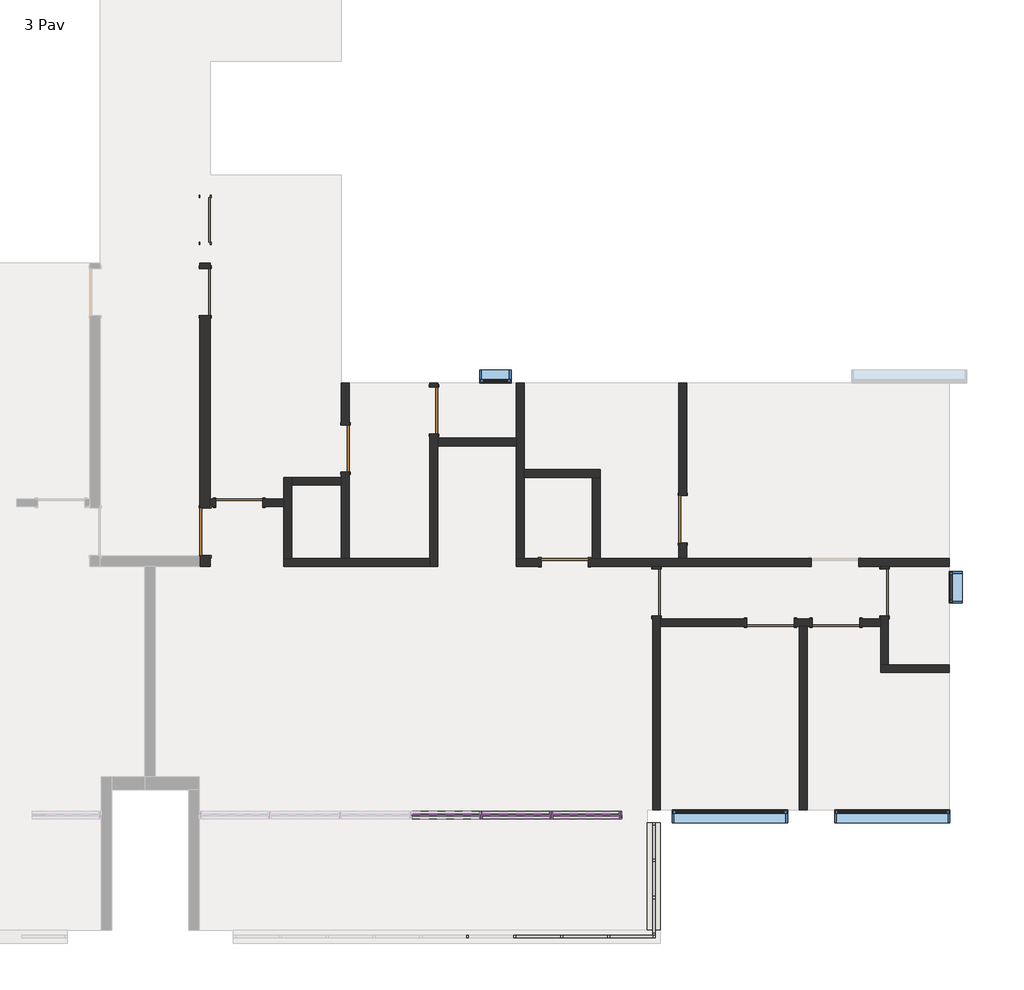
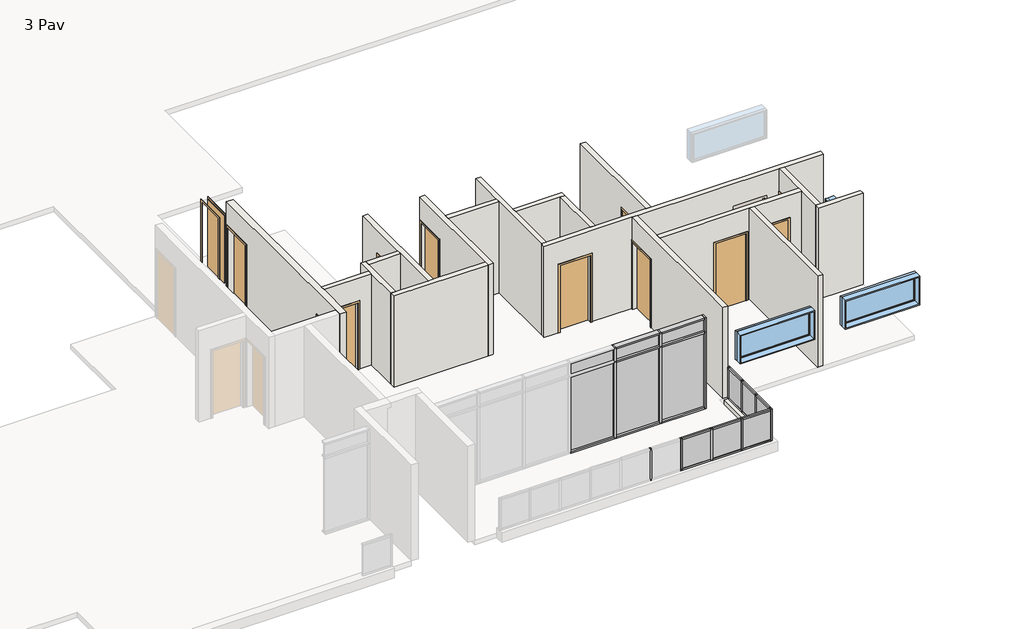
# One storey, part 3 of 6: 34 members, 19 walls, 12 doors, 12 plates, 4 windows.
"""IFC4 building model written with IfcOpenShell, lengths in millimetres."""

from ifc_helpers import new_model, si_unit, frame, origin, place, context, project, spatial, polyline, outline, extrude, faceted_brep, transform, mapped, element, save
from components import door_85_x_210_7675e995, door_90_x_210_ee935524, door_90_x_210_565370b3, door_90_x_210_fbafd55c, montante_retangular_50_mm_quadrado_4acded50, montante_retangular_50_mm_quadrado_237d7072, montante_retangular_50_mm_quadrado_84e40a56, montante_retangular_50_mm_quadrado_3d152aff, montante_retangular_50_mm_quadrado_a01005a4, montante_retangular_50_mm_quadrado_ddd80bd7, montante_retangular_50_x_150_mm_6217edde, montante_retangular_50_x_150_mm_a22249d7, montante_retangular_50_x_150_mm_6225e4e3, montante_retangular_50_x_150_mm_1ca2bba2, montante_retangular_50_x_150_mm_6abf4531, montante_retangular_50_x_150_mm_662c37b1, montante_retangular_50_x_150_mm_567eccab, montante_retangular_50_x_150_mm_0a8c3443, painel_do_sistema_57ceaf50, painel_do_sistema_ab0ed719, painel_do_sistema_0196877a, painel_do_sistema_2aa81470, painel_do_sistema_1ecb5f42, painel_do_sistema_49db1829, painel_do_sistema_5ea5287b, painel_do_sistema_7730abee, window_0610_x_0610_mm_da1d4716, window_220_x_90_84e01c73

model = new_model("IFC4")

# Units and contexts
model_context = context("Model", 3, world=origin())
ifc_project = project(units=[si_unit("LENGTHUNIT", "METRE", prefix="MILLI")], contexts=[model_context])

# Site, building, storey
site = spatial("IfcSite", under=ifc_project)
building = spatial("IfcBuilding", under=site)
storey = spatial("IfcBuildingStorey", under=building, Name="3 Pav", Elevation=9000.0)

# Doors
placement = place(None, origin())
door_85_x_210_shape = door_85_x_210_7675e995(model_context)
element("IfcDoor", 1, ObjectType="M_Descarga simples : 85 x 210", at=placement, inside=storey, context=model_context, shape_type="MappedRepresentation", body=[
    mapped(door_85_x_210_shape, transform((23.7734258, -1171.3385375, 9000.0), x_axis=(0.0, -1.0, 0.0), y_axis=(1.0, 0.0, 0.0), z_axis=(0.0, 0.0, 1.0))),
])
door_90_x_210_shape = door_90_x_210_ee935524(model_context)
element("IfcDoor", 2, ObjectType="M_Descarga simples : 90 x 210", at=placement, inside=storey, context=model_context, shape_type="MappedRepresentation", body=[
    mapped(door_90_x_210_shape, transform((12063.7734258, -8861.3385375, 9000.0), x_axis=(-1.0, 0.0, 0.0), y_axis=(0.0, -1.0, 0.0), z_axis=(0.0, 0.0, 1.0))),
])
element("IfcDoor", 3, ObjectType="M_Descarga simples : 90 x 210", at=placement, inside=storey, context=model_context, shape_type="MappedRepresentation", body=[
    mapped(door_90_x_210_shape, transform((6883.7734258, -7711.3385375, 9000.0), x_axis=(1.0, 0.0, 0.0), y_axis=(0.0, 1.0, 0.0), z_axis=(0.0, 0.0, 1.0))),
])
door_90_x_210_2_shape = door_90_x_210_565370b3(model_context)
element("IfcDoor", 4, ObjectType="M_Descarga simples : 90 x 210", at=placement, inside=storey, context=model_context, shape_type="MappedRepresentation", body=[
    mapped(door_90_x_210_2_shape, transform((673.7734258, -6571.3385375, 9000.0), x_axis=(-1.0, 0.0, 0.0), y_axis=(0.0, -1.0, 0.0), z_axis=(0.0, 0.0, 1.0))),
])
element("IfcDoor", 5, ObjectType="M_Descarga simples : 90 x 210", at=placement, inside=storey, context=model_context, shape_type="MappedRepresentation", body=[
    mapped(door_90_x_210_2_shape, transform((2698.7734258, -5536.3385375, 9000.0), x_axis=(0.0, 1.0, 0.0), y_axis=(-1.0, 0.0, 0.0), z_axis=(0.0, 0.0, 1.0))),
])
element("IfcDoor", 6, ObjectType="M_Descarga simples : 90 x 210", at=placement, inside=storey, context=model_context, shape_type="MappedRepresentation", body=[
    mapped(door_90_x_210_2_shape, transform((4388.7734258, -4811.3385375, 9000.0), x_axis=(0.0, 1.0, 0.0), y_axis=(-1.0, 0.0, 0.0), z_axis=(0.0, 0.0, 1.0))),
])
element("IfcDoor", 7, ObjectType="M_Descarga simples : 90 x 210", at=placement, inside=storey, context=model_context, shape_type="MappedRepresentation", body=[
    mapped(door_90_x_210_2_shape, transform((9138.7734258, -6886.3385375, 9000.0), x_axis=(0.0, -1.0, 0.0), y_axis=(1.0, 0.0, 0.0), z_axis=(0.0, 0.0, 1.0))),
])
element("IfcDoor", 8, ObjectType="M_Descarga simples : 90 x 210", at=placement, inside=storey, context=model_context, shape_type="MappedRepresentation", body=[
    mapped(door_90_x_210_2_shape, transform((8638.7734258, -8286.3385375, 9000.0), x_axis=(0.0, 1.0, 0.0), y_axis=(-1.0, 0.0, 0.0), z_axis=(0.0, 0.0, 1.0))),
])
element("IfcDoor", 9, ObjectType="M_Descarga simples : 90 x 210", at=placement, inside=storey, context=model_context, shape_type="MappedRepresentation", body=[
    mapped(door_90_x_210_2_shape, transform((12988.7734258, -8286.3385375, 9000.0), x_axis=(0.0, 1.0, 0.0), y_axis=(-1.0, 0.0, 0.0), z_axis=(0.0, 0.0, 1.0))),
])
element("IfcDoor", 10, ObjectType="M_Descarga simples : 90 x 210", at=placement, inside=storey, context=model_context, shape_type="MappedRepresentation", body=[
    mapped(door_90_x_210_2_shape, transform((10813.7734258, -8861.3385375, 9000.0), x_axis=(1.0, 0.0, 0.0), y_axis=(0.0, 1.0, 0.0), z_axis=(0.0, 0.0, 1.0))),
])
door_90_x_210_3_shape = door_90_x_210_fbafd55c(model_context)
element("IfcDoor", 11, ObjectType="M_Descarga simples : 90 x 210", at=placement, inside=storey, context=model_context, shape_type="MappedRepresentation", body=[
    mapped(door_90_x_210_3_shape, transform((23.7734258, -2546.3385375, 9000.0), x_axis=(0.0, 1.0, 0.0), y_axis=(-1.0, 0.0, 0.0), z_axis=(0.0, 0.0, 1.0))),
])
element("IfcDoor", 12, ObjectType="M_Descarga simples : 90 x 210", at=placement, inside=storey, context=model_context, shape_type="MappedRepresentation", body=[
    mapped(door_90_x_210_3_shape, transform((23.7734258, -7125.9292512, 9000.0), x_axis=(0.0, -1.0, 0.0), y_axis=(1.0, 0.0, 0.0), z_axis=(0.0, 0.0, 1.0))),
])

# Members
montante_retangular_50_mm_quadrado_shape = montante_retangular_50_mm_quadrado_4acded50(model_context)
element("IfcMember", 13, ObjectType="Montante retangular : 50 mm Quadrado", at=placement, inside=storey, context=model_context, shape_type="MappedRepresentation", body=[
    mapped(montante_retangular_50_mm_quadrado_shape, transform((8563.7734258, -14856.3385375, 10150.0), x_axis=(0.0, 0.0, 1.0), y_axis=(0.0, -1.0, 0.0), z_axis=(1.0, 0.0, 0.0))),
])
montante_retangular_50_mm_quadrado_2_shape = montante_retangular_50_mm_quadrado_237d7072(model_context)
element("IfcMember", 14, ObjectType="Montante retangular : 50 mm Quadrado", at=placement, inside=storey, context=model_context, shape_type="MappedRepresentation", body=[
    mapped(montante_retangular_50_mm_quadrado_2_shape, transform((6798.7734258, -14856.3385375, 10150.0), x_axis=(0.0, 0.0, 1.0), y_axis=(0.0, -1.0, 0.0), z_axis=(1.0, 0.0, 0.0))),
])
element("IfcMember", 15, ObjectType="Montante retangular : 50 mm Quadrado", at=placement, inside=storey, context=model_context, shape_type="MappedRepresentation", body=[
    mapped(montante_retangular_50_mm_quadrado_2_shape, transform((7693.7734258, -14856.3385375, 10150.0), x_axis=(0.0, 0.0, 1.0), y_axis=(0.0, -1.0, 0.0), z_axis=(1.0, 0.0, 0.0))),
])
element("IfcMember", 16, ObjectType="Montante retangular : 50 mm Quadrado", at=placement, inside=storey, context=model_context, shape_type="MappedRepresentation", body=[
    mapped(montante_retangular_50_mm_quadrado_shape, transform((7743.7734258, -14856.3385375, 9150.0), x_axis=(0.0, 0.0, -1.0), y_axis=(0.0, -1.0, 0.0), z_axis=(-1.0, 0.0, 0.0))),
])
element("IfcMember", 17, ObjectType="Montante retangular : 50 mm Quadrado", at=placement, inside=storey, context=model_context, shape_type="MappedRepresentation", body=[
    mapped(montante_retangular_50_mm_quadrado_2_shape, transform((5953.7734258, -14856.3385375, 9150.0), x_axis=(0.0, 0.0, -1.0), y_axis=(0.0, -1.0, 0.0), z_axis=(-1.0, 0.0, 0.0))),
])
element("IfcMember", 18, ObjectType="Montante retangular : 50 mm Quadrado", at=placement, inside=storey, context=model_context, shape_type="MappedRepresentation", body=[
    mapped(montante_retangular_50_mm_quadrado_2_shape, transform((6848.7734258, -14856.3385375, 9150.0), x_axis=(0.0, 0.0, -1.0), y_axis=(0.0, -1.0, 0.0), z_axis=(-1.0, 0.0, 0.0))),
])
montante_retangular_50_mm_quadrado_3_shape = montante_retangular_50_mm_quadrado_84e40a56(model_context)
element("IfcMember", 19, ObjectType="Montante retangular : 50 mm Quadrado", at=placement, inside=storey, context=model_context, shape_type="MappedRepresentation", body=[
    mapped(montante_retangular_50_mm_quadrado_3_shape, transform((5033.7734258, -14856.3385375, 9150.0), x_axis=(1.0, 0.0, 0.0), y_axis=(0.0, -1.0, 0.0), z_axis=(0.0, 0.0, -1.0))),
])
element("IfcMember", 20, ObjectType="Montante retangular : 50 mm Quadrado", at=placement, inside=storey, context=model_context, shape_type="MappedRepresentation", body=[
    mapped(montante_retangular_50_mm_quadrado_3_shape, transform((5928.7734258, -14856.3385375, 9150.0), x_axis=(1.0, 0.0, 0.0), y_axis=(0.0, -1.0, 0.0), z_axis=(0.0, 0.0, -1.0))),
])
element("IfcMember", 21, ObjectType="Montante retangular : 50 mm Quadrado", at=placement, inside=storey, context=model_context, shape_type="MappedRepresentation", body=[
    mapped(montante_retangular_50_mm_quadrado_3_shape, transform((6823.7734258, -14856.3385375, 9150.0), x_axis=(1.0, 0.0, 0.0), y_axis=(0.0, -1.0, 0.0), z_axis=(0.0, 0.0, -1.0))),
])
element("IfcMember", 22, ObjectType="Montante retangular : 50 mm Quadrado", at=placement, inside=storey, context=model_context, shape_type="MappedRepresentation", body=[
    mapped(montante_retangular_50_mm_quadrado_3_shape, transform((7718.7734258, -14856.3385375, 9150.0), x_axis=(1.0, 0.0, 0.0), y_axis=(0.0, -1.0, 0.0), z_axis=(0.0, 0.0, -1.0))),
])
element("IfcMember", 23, ObjectType="Montante retangular : 50 mm Quadrado", at=placement, inside=storey, context=model_context, shape_type="MappedRepresentation", body=[
    mapped(montante_retangular_50_mm_quadrado_3_shape, transform((8588.7734258, -14116.3385375, 9150.0), x_axis=(0.0, 1.0, 0.0), y_axis=(1.0, 0.0, 0.0), z_axis=(0.0, 0.0, -1.0))),
])
element("IfcMember", 24, ObjectType="Montante retangular : 50 mm Quadrado", at=placement, inside=storey, context=model_context, shape_type="MappedRepresentation", body=[
    mapped(montante_retangular_50_mm_quadrado_3_shape, transform((8588.7734258, -13401.3385375, 9150.0), x_axis=(0.0, 1.0, 0.0), y_axis=(1.0, 0.0, 0.0), z_axis=(0.0, 0.0, -1.0))),
])
montante_retangular_50_mm_quadrado_4_shape = montante_retangular_50_mm_quadrado_3d152aff(model_context)
element("IfcMember", 25, ObjectType="Montante retangular : 50 mm Quadrado", at=placement, inside=storey, context=model_context, shape_type="MappedRepresentation", body=[
    mapped(montante_retangular_50_mm_quadrado_4_shape, transform((8613.7734258, -14856.3385375, 9150.0), x_axis=(1.0, 0.0, 0.0), y_axis=(0.0, -1.0, 0.0), z_axis=(0.0, 0.0, -1.0))),
])
element("IfcMember", 26, ObjectType="Montante retangular : 50 mm Quadrado", at=placement, inside=storey, context=model_context, shape_type="MappedRepresentation", body=[
    mapped(montante_retangular_50_mm_quadrado_4_shape, transform((8588.7734258, -12686.3385375, 9150.0), x_axis=(0.0, 1.0, 0.0), y_axis=(1.0, 0.0, 0.0), z_axis=(0.0, 0.0, -1.0))),
])
element("IfcMember", 27, ObjectType="Montante retangular : 50 mm Quadrado", at=placement, inside=storey, context=model_context, shape_type="MappedRepresentation", body=[
    mapped(montante_retangular_50_mm_quadrado_4_shape, transform((8588.7734258, -14831.3385375, 10150.0), x_axis=(0.0, -1.0, 0.0), y_axis=(1.0, 0.0, 0.0), z_axis=(0.0, 0.0, 1.0))),
])
montante_retangular_50_mm_quadrado_5_shape = montante_retangular_50_mm_quadrado_a01005a4(model_context)
element("IfcMember", 28, ObjectType="Montante retangular : 50 mm Quadrado", at=placement, inside=storey, context=model_context, shape_type="MappedRepresentation", body=[
    mapped(montante_retangular_50_mm_quadrado_5_shape, transform((8588.7734258, -12736.3385375, 10150.0), x_axis=(0.0, 0.0, 1.0), y_axis=(1.0, 0.0, 0.0), z_axis=(0.0, 1.0, 0.0))),
])
element("IfcMember", 29, ObjectType="Montante retangular : 50 mm Quadrado", at=placement, inside=storey, context=model_context, shape_type="MappedRepresentation", body=[
    mapped(montante_retangular_50_mm_quadrado_5_shape, transform((8588.7734258, -14141.3385375, 10150.0), x_axis=(0.0, 0.0, 1.0), y_axis=(1.0, 0.0, 0.0), z_axis=(0.0, 1.0, 0.0))),
])
montante_retangular_50_mm_quadrado_6_shape = montante_retangular_50_mm_quadrado_ddd80bd7(model_context)
element("IfcMember", 30, ObjectType="Montante retangular : 50 mm Quadrado", at=placement, inside=storey, context=model_context, shape_type="MappedRepresentation", body=[
    mapped(montante_retangular_50_mm_quadrado_6_shape, transform((8588.7734258, -13426.3385375, 10150.0), x_axis=(0.0, 0.0, 1.0), y_axis=(1.0, 0.0, 0.0), z_axis=(0.0, 1.0, 0.0))),
])
element("IfcMember", 31, ObjectType="Montante retangular : 50 mm Quadrado", at=placement, inside=storey, context=model_context, shape_type="MappedRepresentation", body=[
    mapped(montante_retangular_50_mm_quadrado_5_shape, transform((8588.7734258, -14781.3385375, 9150.0), x_axis=(0.0, 0.0, -1.0), y_axis=(1.0, 0.0, 0.0), z_axis=(0.0, -1.0, 0.0))),
])
element("IfcMember", 32, ObjectType="Montante retangular : 50 mm Quadrado", at=placement, inside=storey, context=model_context, shape_type="MappedRepresentation", body=[
    mapped(montante_retangular_50_mm_quadrado_5_shape, transform((8588.7734258, -13376.3385375, 9150.0), x_axis=(0.0, 0.0, -1.0), y_axis=(1.0, 0.0, 0.0), z_axis=(0.0, -1.0, 0.0))),
])
element("IfcMember", 33, ObjectType="Montante retangular : 50 mm Quadrado", at=placement, inside=storey, context=model_context, shape_type="MappedRepresentation", body=[
    mapped(montante_retangular_50_mm_quadrado_6_shape, transform((8588.7734258, -14091.3385375, 9150.0), x_axis=(0.0, 0.0, -1.0), y_axis=(1.0, 0.0, 0.0), z_axis=(0.0, -1.0, 0.0))),
])
montante_retangular_50_x_150_mm_shape = montante_retangular_50_x_150_mm_6217edde(model_context)
element("IfcMember", 34, ObjectType="Montante retangular : 50 x 150 mm", at=placement, inside=storey, context=model_context, shape_type="MappedRepresentation", body=[
    mapped(montante_retangular_50_x_150_mm_shape, transform((6654.6067592, -12536.3385375, 11850.0), x_axis=(0.0, 0.0, 1.0), y_axis=(0.0, 1.0, 0.0), z_axis=(-1.0, 0.0, 0.0))),
])
montante_retangular_50_x_150_mm_2_shape = montante_retangular_50_x_150_mm_a22249d7(model_context)
element("IfcMember", 35, ObjectType="Montante retangular : 50 x 150 mm", at=placement, inside=storey, context=model_context, shape_type="MappedRepresentation", body=[
    mapped(montante_retangular_50_x_150_mm_2_shape, transform((5310.4400925, -12536.3385375, 11850.0), x_axis=(0.0, 0.0, 1.0), y_axis=(0.0, 1.0, 0.0), z_axis=(-1.0, 0.0, 0.0))),
])
element("IfcMember", 36, ObjectType="Montante retangular : 50 x 150 mm", at=placement, inside=storey, context=model_context, shape_type="MappedRepresentation", body=[
    mapped(montante_retangular_50_x_150_mm_shape, transform((7923.7734258, -12536.3385375, 9000.0), x_axis=(0.0, 0.0, -1.0), y_axis=(0.0, 1.0, 0.0), z_axis=(1.0, 0.0, 0.0))),
])
element("IfcMember", 37, ObjectType="Montante retangular : 50 x 150 mm", at=placement, inside=storey, context=model_context, shape_type="MappedRepresentation", body=[
    mapped(montante_retangular_50_x_150_mm_2_shape, transform((6604.6067592, -12536.3385375, 9000.0), x_axis=(0.0, 0.0, -1.0), y_axis=(0.0, 1.0, 0.0), z_axis=(1.0, 0.0, 0.0))),
])
element("IfcMember", 38, ObjectType="Montante retangular : 50 x 150 mm", at=placement, inside=storey, context=model_context, shape_type="MappedRepresentation", body=[
    mapped(montante_retangular_50_x_150_mm_2_shape, transform((5260.4400925, -12536.3385375, 9000.0), x_axis=(0.0, 0.0, -1.0), y_axis=(0.0, 1.0, 0.0), z_axis=(1.0, 0.0, 0.0))),
])
montante_retangular_50_x_150_mm_3_shape = montante_retangular_50_x_150_mm_6225e4e3(model_context)
element("IfcMember", 39, ObjectType="Montante retangular : 50 x 150 mm", at=placement, inside=storey, context=model_context, shape_type="MappedRepresentation", body=[
    mapped(montante_retangular_50_x_150_mm_3_shape, transform((6629.6067592, -12536.3385375, 9000.0), x_axis=(-1.0, 0.0, 0.0), y_axis=(0.0, 1.0, 0.0), z_axis=(0.0, 0.0, -1.0))),
])
element("IfcMember", 40, ObjectType="Montante retangular : 50 x 150 mm", at=placement, inside=storey, context=model_context, shape_type="MappedRepresentation", body=[
    mapped(montante_retangular_50_x_150_mm_3_shape, transform((5285.4400925, -12536.3385375, 9000.0), x_axis=(-1.0, 0.0, 0.0), y_axis=(0.0, 1.0, 0.0), z_axis=(0.0, 0.0, -1.0))),
])
montante_retangular_50_x_150_mm_4_shape = montante_retangular_50_x_150_mm_1ca2bba2(model_context)
element("IfcMember", 41, ObjectType="Montante retangular : 50 x 150 mm", at=placement, inside=storey, context=model_context, shape_type="MappedRepresentation", body=[
    mapped(montante_retangular_50_x_150_mm_4_shape, transform((6654.6067592, -12536.3385375, 11400.0), x_axis=(0.0, 0.0, 1.0), y_axis=(0.0, 1.0, 0.0), z_axis=(-1.0, 0.0, 0.0))),
])
montante_retangular_50_x_150_mm_5_shape = montante_retangular_50_x_150_mm_6abf4531(model_context)
element("IfcMember", 42, ObjectType="Montante retangular : 50 x 150 mm", at=placement, inside=storey, context=model_context, shape_type="MappedRepresentation", body=[
    mapped(montante_retangular_50_x_150_mm_5_shape, transform((5310.4400925, -12536.3385375, 11400.0), x_axis=(0.0, 0.0, 1.0), y_axis=(0.0, 1.0, 0.0), z_axis=(-1.0, 0.0, 0.0))),
])
montante_retangular_50_x_150_mm_6_shape = montante_retangular_50_x_150_mm_662c37b1(model_context)
element("IfcMember", 43, ObjectType="Montante retangular : 50 x 150 mm", at=placement, inside=storey, context=model_context, shape_type="MappedRepresentation", body=[
    mapped(montante_retangular_50_x_150_mm_6_shape, transform((7973.7734258, -12536.3385375, 11400.0), x_axis=(1.0, 0.0, 0.0), y_axis=(0.0, 1.0, 0.0), z_axis=(0.0, 0.0, 1.0))),
])
montante_retangular_50_x_150_mm_7_shape = montante_retangular_50_x_150_mm_567eccab(model_context)
element("IfcMember", 44, ObjectType="Montante retangular : 50 x 150 mm", at=placement, inside=storey, context=model_context, shape_type="MappedRepresentation", body=[
    mapped(montante_retangular_50_x_150_mm_7_shape, transform((6629.6067592, -12536.3385375, 11400.0), x_axis=(-1.0, 0.0, 0.0), y_axis=(0.0, 1.0, 0.0), z_axis=(0.0, 0.0, -1.0))),
])
element("IfcMember", 45, ObjectType="Montante retangular : 50 x 150 mm", at=placement, inside=storey, context=model_context, shape_type="MappedRepresentation", body=[
    mapped(montante_retangular_50_x_150_mm_7_shape, transform((5285.4400925, -12536.3385375, 11400.0), x_axis=(-1.0, 0.0, 0.0), y_axis=(0.0, 1.0, 0.0), z_axis=(0.0, 0.0, -1.0))),
])
montante_retangular_50_x_150_mm_8_shape = montante_retangular_50_x_150_mm_0a8c3443(model_context)
element("IfcMember", 46, ObjectType="Montante retangular : 50 x 150 mm", at=placement, inside=storey, context=model_context, shape_type="MappedRepresentation", body=[
    mapped(montante_retangular_50_x_150_mm_8_shape, transform((7973.7734258, -12536.3385375, 11850.0), x_axis=(1.0, 0.0, 0.0), y_axis=(0.0, 1.0, 0.0), z_axis=(0.0, 0.0, 1.0))),
])

# Plates
painel_do_sistema_shape = painel_do_sistema_57ceaf50(model_context)
element("IfcPlate", 47, ObjectType="Painel do sistema : Envidraçado", at=placement, inside=storey, context=model_context, shape_type="MappedRepresentation", body=[
    mapped(painel_do_sistema_shape, transform((8153.7734258, -14856.3385375, 9200.0), x_axis=(1.0, 0.0, 0.0), y_axis=(0.0, 1.0, 0.0), z_axis=(0.0, 0.0, 1.0))),
])
painel_do_sistema_2_shape = painel_do_sistema_ab0ed719(model_context)
element("IfcPlate", 48, ObjectType="Painel do sistema : Envidraçado", at=placement, inside=storey, context=model_context, shape_type="MappedRepresentation", body=[
    mapped(painel_do_sistema_2_shape, transform((6376.2734258, -14856.3385375, 9200.0), x_axis=(1.0, 0.0, 0.0), y_axis=(0.0, 1.0, 0.0), z_axis=(0.0, 0.0, 1.0))),
])
element("IfcPlate", 49, ObjectType="Painel do sistema : Envidraçado", at=placement, inside=storey, context=model_context, shape_type="MappedRepresentation", body=[
    mapped(painel_do_sistema_2_shape, transform((7271.2734258, -14856.3385375, 9200.0), x_axis=(1.0, 0.0, 0.0), y_axis=(0.0, 1.0, 0.0), z_axis=(0.0, 0.0, 1.0))),
])
painel_do_sistema_3_shape = painel_do_sistema_0196877a(model_context)
element("IfcPlate", 50, ObjectType="Painel do sistema : Envidraçado", at=placement, inside=storey, context=model_context, shape_type="MappedRepresentation", body=[
    mapped(painel_do_sistema_3_shape, transform((8588.7734258, -14461.3385375, 9200.0), x_axis=(0.0, 1.0, 0.0), y_axis=(-1.0, 0.0, 0.0), z_axis=(0.0, 0.0, 1.0))),
])
element("IfcPlate", 51, ObjectType="Painel do sistema : Envidraçado", at=placement, inside=storey, context=model_context, shape_type="MappedRepresentation", body=[
    mapped(painel_do_sistema_3_shape, transform((8588.7734258, -13056.3385375, 9200.0), x_axis=(0.0, 1.0, 0.0), y_axis=(-1.0, 0.0, 0.0), z_axis=(0.0, 0.0, 1.0))),
])
painel_do_sistema_4_shape = painel_do_sistema_2aa81470(model_context)
element("IfcPlate", 52, ObjectType="Painel do sistema : Envidraçado", at=placement, inside=storey, context=model_context, shape_type="MappedRepresentation", body=[
    mapped(painel_do_sistema_4_shape, transform((8588.7734258, -13758.8385375, 9200.0), x_axis=(0.0, 1.0, 0.0), y_axis=(-1.0, 0.0, 0.0), z_axis=(0.0, 0.0, 1.0))),
])
painel_do_sistema_5_shape = painel_do_sistema_1ecb5f42(model_context)
element("IfcPlate", 53, ObjectType="Painel do sistema : Envidraçado", at=placement, inside=storey, context=model_context, shape_type="MappedRepresentation", body=[
    mapped(painel_do_sistema_5_shape, transform((7289.1900925, -12536.3385375, 9050.0), x_axis=(-1.0, 0.0, 0.0), y_axis=(0.0, -1.0, 0.0), z_axis=(0.0, 0.0, 1.0))),
])
painel_do_sistema_6_shape = painel_do_sistema_49db1829(model_context)
element("IfcPlate", 54, ObjectType="Painel do sistema : Envidraçado", at=placement, inside=storey, context=model_context, shape_type="MappedRepresentation", body=[
    mapped(painel_do_sistema_6_shape, transform((5957.5234258, -12536.3385375, 9050.0), x_axis=(-1.0, 0.0, 0.0), y_axis=(0.0, -1.0, 0.0), z_axis=(0.0, 0.0, 1.0))),
])
element("IfcPlate", 55, ObjectType="Painel do sistema : Envidraçado", at=placement, inside=storey, context=model_context, shape_type="MappedRepresentation", body=[
    mapped(painel_do_sistema_6_shape, transform((4613.3567592, -12536.3385375, 9050.0), x_axis=(-1.0, 0.0, 0.0), y_axis=(0.0, -1.0, 0.0), z_axis=(0.0, 0.0, 1.0))),
])
painel_do_sistema_7_shape = painel_do_sistema_5ea5287b(model_context)
element("IfcPlate", 56, ObjectType="Painel do sistema : Envidraçado", at=placement, inside=storey, context=model_context, shape_type="MappedRepresentation", body=[
    mapped(painel_do_sistema_7_shape, transform((7289.1900925, -12536.3385375, 11425.0), x_axis=(-1.0, 0.0, 0.0), y_axis=(0.0, -1.0, 0.0), z_axis=(0.0, 0.0, 1.0))),
])
painel_do_sistema_8_shape = painel_do_sistema_7730abee(model_context)
element("IfcPlate", 57, ObjectType="Painel do sistema : Envidraçado", at=placement, inside=storey, context=model_context, shape_type="MappedRepresentation", body=[
    mapped(painel_do_sistema_8_shape, transform((5957.5234258, -12536.3385375, 11425.0), x_axis=(-1.0, 0.0, 0.0), y_axis=(0.0, -1.0, 0.0), z_axis=(0.0, 0.0, 1.0))),
])
element("IfcPlate", 58, ObjectType="Painel do sistema : Envidraçado", at=placement, inside=storey, context=model_context, shape_type="MappedRepresentation", body=[
    mapped(painel_do_sistema_8_shape, transform((4613.3567592, -12536.3385375, 11425.0), x_axis=(-1.0, 0.0, 0.0), y_axis=(0.0, -1.0, 0.0), z_axis=(0.0, 0.0, 1.0))),
])

# Walls
element("IfcWall", 59, ObjectType="Exeterna 25", at=placement, inside=storey, context=model_context, shape_type="SweptSolid", body=[
    extrude(outline(polyline([(8713.7734258, -12686.3385375), (8713.7734258, -14731.3385375), (8463.7734258, -14731.3385375), (8463.7734258, -12686.3385375), (8713.7734258, -12686.3385375)])), frame((0.0, 0.0, 8850.0), z_axis=(0.0, 0.0, 1.0), x_axis=(1.0, 0.0, 0.0)), (0.0, 0.0, 1.0), 300.0),
])
element("IfcWall", 60, ObjectType="Interna 15", at=placement, inside=storey, context=model_context, shape_type="Brep", body=[
    faceted_brep([(8713.7734258, -7836.3385375, 11100.0), (8713.7734258, -7836.3385375, 9000.0), (8713.7734258, -7786.3385375, 9000.0), (8713.7734258, -7786.3385375, 11850.0), (8713.7734258, -8786.3385375, 11850.0), (8713.7734258, -8936.3385375, 11850.0), (8713.7734258, -12436.3385375, 11850.0), (8713.7734258, -12436.3385375, 9000.0), (8713.7734258, -8936.3385375, 9000.0), (8713.7734258, -8786.3385375, 9000.0), (8713.7734258, -8736.3385375, 9000.0), (8713.7734258, -8736.3385375, 11100.0), (8563.7734258, -7786.3385375, 9000.0), (8563.7734258, -7836.3385375, 9000.0), (8563.7734258, -7836.3385375, 11100.0), (8563.7734258, -8736.3385375, 11100.0), (8563.7734258, -8736.3385375, 9000.0), (8563.7734258, -12436.3385375, 9000.0), (8563.7734258, -12436.3385375, 11850.0), (8563.7734258, -7786.3385375, 11850.0)], [[[0, 1, 2, 3, 4, 5, 6, 7, 8, 9, 10, 11]], [[12, 13, 14, 15, 16, 17, 18, 19]], [[2, 1, 13, 12]], [[10, 9, 8, 7, 17, 16]], [[6, 5, 4, 3, 19, 18]], [[3, 2, 12, 19]], [[14, 13, 1, 0]], [[15, 14, 0, 11]], [[16, 15, 11, 10]], [[7, 6, 18, 17]]]),
])
element("IfcWall", 61, ObjectType="Interna 15", at=placement, inside=storey, context=model_context, shape_type="Brep", body=[
    faceted_brep([(11263.7734258, -8936.3385375, 9000.0), (11363.7734258, -8936.3385375, 9000.0), (11513.7734258, -8936.3385375, 9000.0), (11613.7734258, -8936.3385375, 9000.0), (11613.7734258, -8936.3385375, 11100.0), (12513.7734258, -8936.3385375, 11100.0), (12513.7734258, -8936.3385375, 9000.0), (12913.7734258, -8936.3385375, 9000.0), (12913.7734258, -8936.3385375, 11850.0), (11513.7734258, -8936.3385375, 11850.0), (11363.7734258, -8936.3385375, 11850.0), (8713.7734258, -8936.3385375, 11850.0), (8713.7734258, -8936.3385375, 9000.0), (10363.7734258, -8936.3385375, 9000.0), (10363.7734258, -8936.3385375, 11100.0), (11263.7734258, -8936.3385375, 11100.0), (11613.7734258, -8786.3385375, 11100.0), (11613.7734258, -8786.3385375, 9000.0), (11263.7734258, -8786.3385375, 9000.0), (11263.7734258, -8786.3385375, 11100.0), (10363.7734258, -8786.3385375, 11100.0), (10363.7734258, -8786.3385375, 9000.0), (8713.7734258, -8786.3385375, 9000.0), (8713.7734258, -8786.3385375, 11850.0), (12913.7734258, -8786.3385375, 11850.0), (12913.7734258, -8786.3385375, 9000.0), (12513.7734258, -8786.3385375, 9000.0), (12513.7734258, -8786.3385375, 11100.0)], [[[0, 1, 2, 3, 4, 5, 6, 7, 8, 9, 10, 11, 12, 13, 14, 15]], [[16, 17, 18, 19, 20, 21, 22, 23, 24, 25, 26, 27]], [[13, 12, 22, 21]], [[26, 25, 7, 6]], [[18, 17, 3, 2, 1, 0]], [[11, 10, 9, 8, 24, 23]], [[12, 11, 23, 22]], [[8, 7, 25, 24]], [[4, 3, 17, 16]], [[5, 4, 16, 27]], [[6, 5, 27, 26]], [[19, 18, 0, 15]], [[20, 19, 15, 14]], [[21, 20, 14, 13]]]),
])
element("IfcWall", 62, ObjectType="Interna 15", at=placement, inside=storey, context=model_context, shape_type="SweptSolid", body=[
    extrude(outline(polyline([(11363.7734258, -12436.3385375), (11363.7734258, -8936.3385375), (11513.7734258, -8936.3385375), (11513.7734258, -12436.3385375), (11363.7734258, -12436.3385375)])), frame((0.0, 0.0, 9000.0), z_axis=(0.0, 0.0, 1.0), x_axis=(1.0, 0.0, 0.0)), (0.0, 0.0, 1.0), 2850.0),
])
element("IfcWall", 63, ObjectType="Interna 15", at=placement, inside=storey, context=model_context, shape_type="Brep", body=[
    faceted_brep([(14223.269929, -9666.3385375, 9000.0), (13063.7734258, -9666.3385375, 9000.0), (12913.7734258, -9666.3385375, 9000.0), (12913.7734258, -9666.3385375, 11850.0), (13063.7734258, -9666.3385375, 11850.0), (14223.269929, -9666.3385375, 11850.0), (14223.269929, -9816.3385375, 9000.0), (14223.269929, -9816.3385375, 11850.0), (12913.7734258, -9816.3385375, 11850.0), (12913.7734258, -9816.3385375, 9000.0)], [[[0, 1, 2, 3, 4, 5]], [[6, 7, 8, 9]], [[2, 1, 0, 6, 9]], [[5, 4, 3, 8, 7]], [[3, 2, 9, 8]], [[0, 5, 7, 6]]]),
])
element("IfcWall", 64, ObjectType="Interna 15", at=placement, inside=storey, context=model_context, shape_type="Brep", body=[
    faceted_brep([(13063.7734258, -7836.3385375, 11100.0), (13063.7734258, -7836.3385375, 9000.0), (13063.7734258, -7786.3385375, 9000.0), (13063.7734258, -7786.3385375, 11850.0), (13063.7734258, -9666.3385375, 11850.0), (13063.7734258, -9666.3385375, 9000.0), (13063.7734258, -8736.3385375, 9000.0), (13063.7734258, -8736.3385375, 11100.0), (12913.7734258, -7786.3385375, 9000.0), (12913.7734258, -7836.3385375, 9000.0), (12913.7734258, -7836.3385375, 11100.0), (12913.7734258, -8736.3385375, 11100.0), (12913.7734258, -8736.3385375, 9000.0), (12913.7734258, -8786.3385375, 9000.0), (12913.7734258, -8936.3385375, 9000.0), (12913.7734258, -9666.3385375, 9000.0), (12913.7734258, -9666.3385375, 11850.0), (12913.7734258, -8936.3385375, 11850.0), (12913.7734258, -8786.3385375, 11850.0), (12913.7734258, -7786.3385375, 11850.0)], [[[0, 1, 2, 3, 4, 5, 6, 7]], [[8, 9, 10, 11, 12, 13, 14, 15, 16, 17, 18, 19]], [[6, 5, 15, 14, 13, 12]], [[2, 1, 9, 8]], [[4, 3, 19, 18, 17, 16]], [[3, 2, 8, 19]], [[5, 4, 16, 15]], [[10, 9, 1, 0]], [[11, 10, 0, 7]], [[12, 11, 7, 6]]]),
])
element("IfcWall", 65, ObjectType="Interna 15", at=placement, inside=storey, context=model_context, shape_type="Brep", body=[
    faceted_brep([(11593.7734258, -7636.3385375, 9000.0), (9213.7734258, -7636.3385375, 9000.0), (9063.7734258, -7636.3385375, 9000.0), (7563.7734258, -7636.3385375, 9000.0), (7413.7734258, -7636.3385375, 9000.0), (7333.7734258, -7636.3385375, 9000.0), (7333.7734258, -7636.3385375, 11100.0), (6433.7734258, -7636.3385375, 11100.0), (6433.7734258, -7636.3385375, 9000.0), (6113.7734258, -7636.3385375, 9000.0), (5963.7734258, -7636.3385375, 9000.0), (5963.7734258, -7636.3385375, 11850.0), (6113.7734258, -7636.3385375, 11850.0), (7413.7734258, -7636.3385375, 11850.0), (7563.7734258, -7636.3385375, 11850.0), (9063.7734258, -7636.3385375, 11850.0), (9213.7734258, -7636.3385375, 11850.0), (14223.269929, -7636.3385375, 11850.0), (14223.269929, -7636.3385375, 9000.0), (12493.7734258, -7636.3385375, 9000.0), (12493.7734258, -7636.3385375, 11100.0), (11593.7734258, -7636.3385375, 11100.0), (7333.7734258, -7786.3385375, 11100.0), (7333.7734258, -7786.3385375, 9000.0), (8563.7734258, -7786.3385375, 9000.0), (8713.7734258, -7786.3385375, 9000.0), (11593.7734258, -7786.3385375, 9000.0), (11593.7734258, -7786.3385375, 11100.0), (12493.7734258, -7786.3385375, 11100.0), (12493.7734258, -7786.3385375, 9000.0), (12913.7734258, -7786.3385375, 9000.0), (13063.7734258, -7786.3385375, 9000.0), (14223.269929, -7786.3385375, 9000.0), (14223.269929, -7786.3385375, 11850.0), (13063.7734258, -7786.3385375, 11850.0), (12913.7734258, -7786.3385375, 11850.0), (8713.7734258, -7786.3385375, 11850.0), (8563.7734258, -7786.3385375, 11850.0), (5963.7734258, -7786.3385375, 11850.0), (5963.7734258, -7786.3385375, 9000.0), (6433.7734258, -7786.3385375, 9000.0), (6433.7734258, -7786.3385375, 11100.0)], [[[0, 1, 2, 3, 4, 5, 6, 7, 8, 9, 10, 11, 12, 13, 14, 15, 16, 17, 18, 19, 20, 21]], [[22, 23, 24, 25, 26, 27, 28, 29, 30, 31, 32, 33, 34, 35, 36, 37, 38, 39, 40, 41]], [[40, 39, 10, 9, 8]], [[26, 25, 24, 23, 5, 4, 3, 2, 1, 0]], [[32, 31, 30, 29, 19, 18]], [[17, 16, 15, 14, 13, 12, 11, 38, 37, 36, 35, 34, 33]], [[11, 10, 39, 38]], [[6, 5, 23, 22]], [[7, 6, 22, 41]], [[8, 7, 41, 40]], [[20, 19, 29, 28]], [[21, 20, 28, 27]], [[0, 21, 27, 26]], [[18, 17, 33, 32]]]),
])
element("IfcWall", 66, ObjectType="Interna 15", at=placement, inside=storey, context=model_context, shape_type="Brep", body=[
    faceted_brep([(6113.7734258, -7636.3385375, 9000.0), (6113.7734258, -6086.3385375, 9000.0), (6113.7734258, -5936.3385375, 9000.0), (6113.7734258, -4286.3385375, 9000.0), (6113.7734258, -4286.3385375, 11850.0), (6113.7734258, -5936.3385375, 11850.0), (6113.7734258, -6086.3385375, 11850.0), (6113.7734258, -7636.3385375, 11850.0), (5963.7734258, -7636.3385375, 9000.0), (5963.7734258, -7636.3385375, 11850.0), (5963.7734258, -5486.3385375, 11850.0), (5963.7734258, -5336.3385375, 11850.0), (5963.7734258, -4286.3385375, 11850.0), (5963.7734258, -4286.3385375, 9000.0), (5963.7734258, -5336.3385375, 9000.0), (5963.7734258, -5486.3385375, 9000.0)], [[[0, 1, 2, 3, 4, 5, 6, 7]], [[8, 9, 10, 11, 12, 13, 14, 15]], [[3, 2, 1, 0, 8, 15, 14, 13]], [[7, 6, 5, 4, 12, 11, 10, 9]], [[0, 7, 9, 8]], [[4, 3, 13, 12]]]),
])
element("IfcWall", 67, ObjectType="Interna 15", at=placement, inside=storey, context=model_context, shape_type="Brep", body=[
    faceted_brep([(6113.7734258, -6086.3385375, 9000.0), (7413.7734258, -6086.3385375, 9000.0), (7563.7734258, -6086.3385375, 9000.0), (7563.7734258, -6086.3385375, 11850.0), (7413.7734258, -6086.3385375, 11850.0), (6113.7734258, -6086.3385375, 11850.0), (6113.7734258, -5936.3385375, 9000.0), (6113.7734258, -5936.3385375, 11850.0), (7563.7734258, -5936.3385375, 11850.0), (7563.7734258, -5936.3385375, 9000.0)], [[[0, 1, 2, 3, 4, 5]], [[6, 7, 8, 9]], [[2, 1, 0, 6, 9]], [[5, 4, 3, 8, 7]], [[0, 5, 7, 6]], [[3, 2, 9, 8]]]),
])
element("IfcWall", 68, ObjectType="Interna 15", at=placement, inside=storey, context=model_context, shape_type="SweptSolid", body=[
    extrude(outline(polyline([(7413.7734258, -7636.3385375), (7413.7734258, -6086.3385375), (7563.7734258, -6086.3385375), (7563.7734258, -7636.3385375), (7413.7734258, -7636.3385375)])), frame((0.0, 0.0, 9000.0), z_axis=(0.0, 0.0, 1.0), x_axis=(1.0, 0.0, 0.0)), (0.0, 0.0, 1.0), 2850.0),
])
element("IfcWall", 69, ObjectType="Interna 15", at=placement, inside=storey, context=model_context, shape_type="SweptSolid", body=[
    extrude(outline(polyline([(-7336.3385375, 11100.0), (-7336.3385375, 9000.0), (-7636.3385375, 9000.0), (-7636.3385375, 11850.0), (-4286.3385375, 11850.0), (-4286.3385375, 9000.0), (-6436.3385375, 9000.0), (-6436.3385375, 11100.0), (-7336.3385375, 11100.0)])), frame((9063.7734258, 0.0, 0.0), z_axis=(1.0, 0.0, 0.0), x_axis=(0.0, 1.0, 0.0)), (0.0, 0.0, 1.0), 150.0),
])
element("IfcWall", 70, ObjectType="Interna 15", at=placement, inside=storey, context=model_context, shape_type="SweptSolid", body=[
    extrude(outline(polyline([(4463.7734258, -5336.3385375), (5963.7734258, -5336.3385375), (5963.7734258, -5486.3385375), (4463.7734258, -5486.3385375), (4463.7734258, -5336.3385375)])), frame((0.0, 0.0, 9000.0), z_axis=(0.0, 0.0, 1.0), x_axis=(1.0, 0.0, 0.0)), (0.0, 0.0, 1.0), 2850.0),
])
element("IfcWall", 71, ObjectType="Interna 15", at=placement, inside=storey, context=model_context, shape_type="Brep", body=[
    faceted_brep([(4313.7734258, -4286.3385375, 9000.0), (4313.7734258, -4361.3385375, 9000.0), (4313.7734258, -4361.3385375, 11100.0), (4313.7734258, -5261.3385375, 11100.0), (4313.7734258, -5261.3385375, 9000.0), (4313.7734258, -7636.3385375, 9000.0), (4313.7734258, -7786.3385375, 9000.0), (4313.7734258, -7786.3385375, 11850.0), (4313.7734258, -7636.3385375, 11850.0), (4313.7734258, -4286.3385375, 11850.0), (4463.7734258, -4361.3385375, 11100.0), (4463.7734258, -4361.3385375, 9000.0), (4463.7734258, -4286.3385375, 9000.0), (4463.7734258, -4286.3385375, 11850.0), (4463.7734258, -5336.3385375, 11850.0), (4463.7734258, -5486.3385375, 11850.0), (4463.7734258, -7786.3385375, 11850.0), (4463.7734258, -7786.3385375, 9000.0), (4463.7734258, -5486.3385375, 9000.0), (4463.7734258, -5336.3385375, 9000.0), (4463.7734258, -5261.3385375, 9000.0), (4463.7734258, -5261.3385375, 11100.0)], [[[0, 1, 2, 3, 4, 5, 6, 7, 8, 9]], [[10, 11, 12, 13, 14, 15, 16, 17, 18, 19, 20, 21]], [[12, 11, 1, 0]], [[20, 19, 18, 17, 6, 5, 4]], [[9, 8, 7, 16, 15, 14, 13]], [[7, 6, 17, 16]], [[2, 1, 11, 10]], [[3, 2, 10, 21]], [[4, 3, 21, 20]], [[0, 9, 13, 12]]]),
])
element("IfcWall", 72, ObjectType="Interna 15", at=placement, inside=storey, context=model_context, shape_type="Brep", body=[
    faceted_brep([(4313.7734258, -7636.3385375, 9000.0), (2773.7734258, -7636.3385375, 9000.0), (2623.7734258, -7636.3385375, 9000.0), (1673.7734258, -7636.3385375, 9000.0), (1523.7734258, -7636.3385375, 9000.0), (1523.7734258, -7636.3385375, 11850.0), (1673.7734258, -7636.3385375, 11850.0), (2623.7734258, -7636.3385375, 11850.0), (2773.7734258, -7636.3385375, 11850.0), (4313.7734258, -7636.3385375, 11850.0), (4313.7734258, -7786.3385375, 9000.0), (4313.7734258, -7786.3385375, 11850.0), (1523.7734258, -7786.3385375, 11850.0), (1523.7734258, -7786.3385375, 9000.0)], [[[0, 1, 2, 3, 4, 5, 6, 7, 8, 9]], [[10, 11, 12, 13]], [[4, 3, 2, 1, 0, 10, 13]], [[9, 8, 7, 6, 5, 12, 11]], [[0, 9, 11, 10]], [[5, 4, 13, 12]]]),
])
element("IfcWall", 73, ObjectType="Interna 15", at=placement, inside=storey, context=model_context, shape_type="Brep", body=[
    faceted_brep([(2773.7734258, -5086.3385375, 11100.0), (2773.7734258, -5086.3385375, 9000.0), (2773.7734258, -4286.3385375, 9000.0), (2773.7734258, -4286.3385375, 11850.0), (2773.7734258, -7636.3385375, 11850.0), (2773.7734258, -7636.3385375, 9000.0), (2773.7734258, -5986.3385375, 9000.0), (2773.7734258, -5986.3385375, 11100.0), (2623.7734258, -4286.3385375, 9000.0), (2623.7734258, -5086.3385375, 9000.0), (2623.7734258, -5086.3385375, 11100.0), (2623.7734258, -5986.3385375, 11100.0), (2623.7734258, -5986.3385375, 9000.0), (2623.7734258, -6086.3385375, 9000.0), (2623.7734258, -6236.3385375, 9000.0), (2623.7734258, -7636.3385375, 9000.0), (2623.7734258, -7636.3385375, 11850.0), (2623.7734258, -6236.3385375, 11850.0), (2623.7734258, -6086.3385375, 11850.0), (2623.7734258, -4286.3385375, 11850.0)], [[[0, 1, 2, 3, 4, 5, 6, 7]], [[8, 9, 10, 11, 12, 13, 14, 15, 16, 17, 18, 19]], [[6, 5, 15, 14, 13, 12]], [[2, 1, 9, 8]], [[4, 3, 19, 18, 17, 16]], [[5, 4, 16, 15]], [[10, 9, 1, 0]], [[11, 10, 0, 7]], [[12, 11, 7, 6]], [[3, 2, 8, 19]]]),
])
element("IfcWall", 74, ObjectType="Interna 15", at=placement, inside=storey, context=model_context, shape_type="Brep", body=[
    faceted_brep([(1673.7734258, -7636.3385375, 9000.0), (1673.7734258, -6236.3385375, 9000.0), (1673.7734258, -6086.3385375, 9000.0), (1673.7734258, -6086.3385375, 11850.0), (1673.7734258, -6236.3385375, 11850.0), (1673.7734258, -7636.3385375, 11850.0), (1523.7734258, -7636.3385375, 9000.0), (1523.7734258, -7636.3385375, 11850.0), (1523.7734258, -6646.3385375, 11850.0), (1523.7734258, -6496.3385375, 11850.0), (1523.7734258, -6086.3385375, 11850.0), (1523.7734258, -6086.3385375, 9000.0), (1523.7734258, -6496.3385375, 9000.0), (1523.7734258, -6646.3385375, 9000.0)], [[[0, 1, 2, 3, 4, 5]], [[6, 7, 8, 9, 10, 11, 12, 13]], [[2, 1, 0, 6, 13, 12, 11]], [[5, 4, 3, 10, 9, 8, 7]], [[3, 2, 11, 10]], [[0, 5, 7, 6]]]),
])
element("IfcWall", 75, ObjectType="Interna 15", at=placement, inside=storey, context=model_context, shape_type="SweptSolid", body=[
    extrude(outline(polyline([(2623.7734258, -6236.3385375), (1673.7734258, -6236.3385375), (1673.7734258, -6086.3385375), (2623.7734258, -6086.3385375), (2623.7734258, -6236.3385375)])), frame((0.0, 0.0, 9000.0), z_axis=(0.0, 0.0, 1.0), x_axis=(1.0, 0.0, 0.0)), (0.0, 0.0, 1.0), 2850.0),
])
element("IfcWall", 76, ObjectType="Interna 15", at=placement, inside=storey, context=model_context, shape_type="SweptSolid", body=[
    extrude(outline(polyline([(11850.0, 1523.7734258), (11850.0, 123.7734258), (9000.0, 123.7734258), (9000.0, 223.7734258), (11100.0, 223.7734258), (11100.0, 1123.7734258), (9000.0, 1123.7734258), (9000.0, 1523.7734258), (11850.0, 1523.7734258)])), frame((0.0, -6646.3385375, 0.0), z_axis=(0.0, 1.0, 0.0), x_axis=(0.0, 0.0, 1.0)), (0.0, 0.0, 1.0), 150.0),
])
element("IfcWall", 77, ObjectType="Interna 20", at=placement, inside=storey, context=model_context, shape_type="Brep", body=[
    faceted_brep([(123.7734258, -7786.3385375, 9000.0), (123.7734258, -7575.9292512, 9000.0), (123.7734258, -7575.9292512, 11100.0), (123.7734258, -6675.9292512, 11100.0), (123.7734258, -6675.9292512, 9000.0), (123.7734258, -6646.3385375, 9000.0), (123.7734258, -6496.3385375, 9000.0), (123.7734258, -2996.3385375, 9000.0), (123.7734258, -2996.3385375, 11100.0), (123.7734258, -2096.3385375, 11100.0), (123.7734258, -2096.3385375, 9000.0), (123.7734258, -1996.3385375, 9000.0), (123.7734258, -1996.3385375, 11850.0), (123.7734258, -6496.3385375, 11850.0), (123.7734258, -6646.3385375, 11850.0), (123.7734258, -7786.3385375, 11850.0), (-76.2265742, -7575.9292512, 11100.0), (-76.2265742, -7575.9292512, 9000.0), (-76.2265742, -7586.3385375, 9000.0), (-76.2265742, -7786.3385375, 9000.0), (-76.2265742, -7786.3385375, 11850.0), (-76.2265742, -7586.3385375, 11850.0), (-76.2265742, -1996.3385375, 11850.0), (-76.2265742, -1996.3385375, 9000.0), (-76.2265742, -2096.3385375, 9000.0), (-76.2265742, -2096.3385375, 11100.0), (-76.2265742, -2996.3385375, 11100.0), (-76.2265742, -2996.3385375, 9000.0), (-76.2265742, -6675.9292512, 9000.0), (-76.2265742, -6675.9292512, 11100.0)], [[[0, 1, 2, 3, 4, 5, 6, 7, 8, 9, 10, 11, 12, 13, 14, 15]], [[16, 17, 18, 19, 20, 21, 22, 23, 24, 25, 26, 27, 28, 29]], [[11, 10, 24, 23]], [[28, 27, 7, 6, 5, 4]], [[19, 18, 17, 1, 0]], [[15, 14, 13, 12, 22, 21, 20]], [[0, 15, 20, 19]], [[2, 1, 17, 16]], [[3, 2, 16, 29]], [[4, 3, 29, 28]], [[25, 24, 10, 9]], [[26, 25, 9, 8]], [[27, 26, 8, 7]], [[12, 11, 23, 22]]]),
])

# Windows
window_0610_x_0610_mm_shape = window_0610_x_0610_mm_da1d4716(model_context)
element("IfcWindow", 78, ObjectType="M_Fixado : 0610 x 0610 mm", at=placement, inside=storey, context=model_context, shape_type="MappedRepresentation", body=[
    mapped(window_0610_x_0610_mm_shape, transform((5563.7734258, -4148.3385375, 9000.0), x_axis=(-1.0, 0.0, 0.0), y_axis=(0.0, -1.0, 0.0), z_axis=(0.0, 0.0, 1.0))),
])
element("IfcWindow", 79, ObjectType="M_Fixado : 0610 x 0610 mm", at=placement, inside=storey, context=model_context, shape_type="MappedRepresentation", body=[
    mapped(window_0610_x_0610_mm_shape, transform((14361.269929, -8186.3385375, 9000.0), x_axis=(0.0, 1.0, 0.0), y_axis=(-1.0, 0.0, 0.0), z_axis=(0.0, 0.0, 1.0))),
])
window_220_x_90_shape = window_220_x_90_84e01c73(model_context)
element("IfcWindow", 80, ObjectType="M_Fixado : 220 x 90", at=placement, inside=storey, context=model_context, shape_type="MappedRepresentation", body=[
    mapped(window_220_x_90_shape, transform((10038.7734258, -12574.3385375, 9185.0), x_axis=(-1.0, 0.0, 0.0), y_axis=(0.0, -1.0, 0.0), z_axis=(0.0, 0.0, 1.0))),
])
element("IfcWindow", 81, ObjectType="M_Fixado : 220 x 90", at=placement, inside=storey, context=model_context, shape_type="MappedRepresentation", body=[
    mapped(window_220_x_90_shape, transform((13138.7734258, -12574.3385375, 9185.0), x_axis=(-1.0, 0.0, 0.0), y_axis=(0.0, -1.0, 0.0), z_axis=(0.0, 0.0, 1.0))),
])

save(model, "model.ifc")
